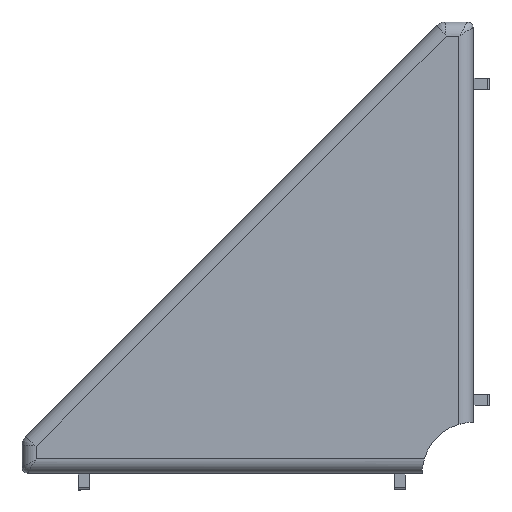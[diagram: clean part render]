
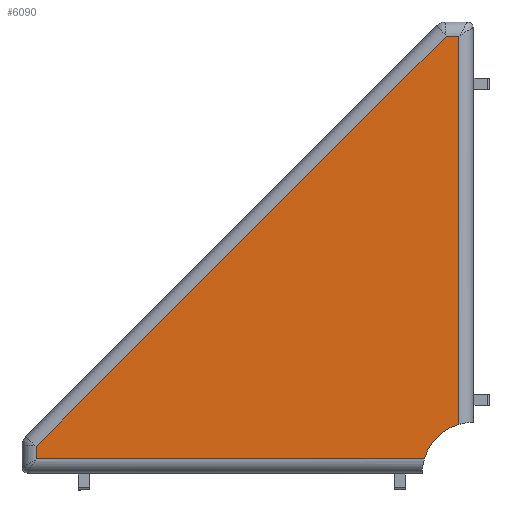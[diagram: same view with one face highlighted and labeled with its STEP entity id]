
A CAD part, left-side view. The second image highlights one B-rep face of the part: STEP entity #6090.
In plain terms, the highlighted planar face has unit normal (-1, 0, 0).
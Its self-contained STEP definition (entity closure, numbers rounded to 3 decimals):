
#7 = DIRECTION ( 'NONE',  ( 0., 0., 1. ) ) ;
#13 = PLANE ( 'NONE',  #2169 ) ;
#228 = LINE ( 'NONE', #907, #6309 ) ;
#907 = CARTESIAN_POINT ( 'NONE',  ( -73., -2.354, -75.354 ) ) ;
#1153 = DIRECTION ( 'NONE',  ( 0., 0., -1. ) ) ;
#1734 = EDGE_CURVE ( 'NONE', #6862, #2055, #228, .T. ) ;
#1739 = ORIENTED_EDGE ( 'NONE', *, *, #3734, .F. ) ;
#1770 = CARTESIAN_POINT ( 'NONE',  ( -73., -77.5, -1. ) ) ;
#1833 = ORIENTED_EDGE ( 'NONE', *, *, #4048, .T. ) ;
#1972 = VECTOR ( 'NONE', #1153, 1000. ) ;
#2055 = VERTEX_POINT ( 'NONE', #6975 ) ;
#2068 = AXIS2_PLACEMENT_3D ( 'NONE', #5360, #3060, #4273 ) ;
#2169 = AXIS2_PLACEMENT_3D ( 'NONE', #2314, #6893, #5845 ) ;
#2178 = CARTESIAN_POINT ( 'NONE',  ( -73., -71., -77.5 ) ) ;
#2280 = LINE ( 'NONE', #5927, #6381 ) ;
#2314 = CARTESIAN_POINT ( 'NONE',  ( -73., -79., -1. ) ) ;
#2405 = ORIENTED_EDGE ( 'NONE', *, *, #3266, .T. ) ;
#2431 = CARTESIAN_POINT ( 'NONE',  ( -73., -2.5, -79. ) ) ;
#2783 = DIRECTION ( 'NONE',  ( 0., -1., 0. ) ) ;
#2850 = EDGE_CURVE ( 'NONE', #5364, #3251, #7320, .T. ) ;
#3060 = DIRECTION ( 'NONE',  ( -1., 0., 0. ) ) ;
#3185 = EDGE_CURVE ( 'NONE', #2055, #5364, #5186, .T. ) ;
#3186 = DIRECTION ( 'NONE',  ( 0., 1., 0. ) ) ;
#3201 = DIRECTION ( 'NONE',  ( 0., 0.707, -0.707 ) ) ;
#3251 = VERTEX_POINT ( 'NONE', #7010 ) ;
#3266 = EDGE_CURVE ( 'NONE', #7352, #6862, #2280, .T. ) ;
#3393 = VECTOR ( 'NONE', #7, 1000. ) ;
#3713 = CARTESIAN_POINT ( 'NONE',  ( -73., -77.5, -2.5 ) ) ;
#3734 = EDGE_CURVE ( 'NONE', #6723, #3251, #5790, .T. ) ;
#3935 = CARTESIAN_POINT ( 'NONE',  ( -73., -75.207, -2.5 ) ) ;
#3963 = ORIENTED_EDGE ( 'NONE', *, *, #1734, .T. ) ;
#4048 = EDGE_CURVE ( 'NONE', #6723, #7352, #6959, .T. ) ;
#4146 = EDGE_LOOP ( 'NONE', ( #1739, #1833, #2405, #3963, #5206, #7129 ) ) ;
#4273 = DIRECTION ( 'NONE',  ( 0., 0., -1. ) ) ;
#4991 = CARTESIAN_POINT ( 'NONE',  ( -73., -77.5, -71.354 ) ) ;
#5183 = FACE_OUTER_BOUND ( 'NONE', #4146, .T. ) ;
#5186 = LINE ( 'NONE', #2431, #1972 ) ;
#5206 = ORIENTED_EDGE ( 'NONE', *, *, #3185, .T. ) ;
#5360 = CARTESIAN_POINT ( 'NONE',  ( -73., -80., -80. ) ) ;
#5364 = VERTEX_POINT ( 'NONE', #5562 ) ;
#5562 = CARTESIAN_POINT ( 'NONE',  ( -73., -2.5, -77.5 ) ) ;
#5790 = CIRCLE ( 'NONE', #2068, 9. ) ;
#5845 = DIRECTION ( 'NONE',  ( 0., 0., -1. ) ) ;
#5927 = CARTESIAN_POINT ( 'NONE',  ( -73., -75., -2.5 ) ) ;
#6090 = ADVANCED_FACE ( 'NONE', ( #5183 ), #13, .F. ) ;
#6309 = VECTOR ( 'NONE', #3201, 1000. ) ;
#6381 = VECTOR ( 'NONE', #3186, 1000. ) ;
#6536 = VECTOR ( 'NONE', #2783, 1000. ) ;
#6723 = VERTEX_POINT ( 'NONE', #4991 ) ;
#6862 = VERTEX_POINT ( 'NONE', #3935 ) ;
#6893 = DIRECTION ( 'NONE',  ( 1., 0., 0. ) ) ;
#6959 = LINE ( 'NONE', #1770, #3393 ) ;
#6975 = CARTESIAN_POINT ( 'NONE',  ( -73., -2.5, -75.207 ) ) ;
#7010 = CARTESIAN_POINT ( 'NONE',  ( -73., -71.354, -77.5 ) ) ;
#7129 = ORIENTED_EDGE ( 'NONE', *, *, #2850, .T. ) ;
#7320 = LINE ( 'NONE', #2178, #6536 ) ;
#7352 = VERTEX_POINT ( 'NONE', #3713 ) ;
